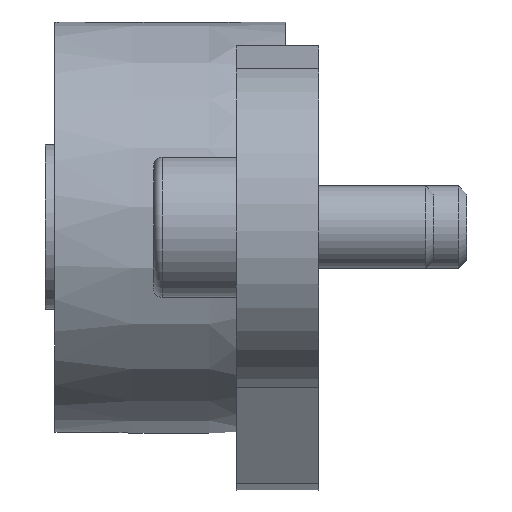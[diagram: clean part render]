
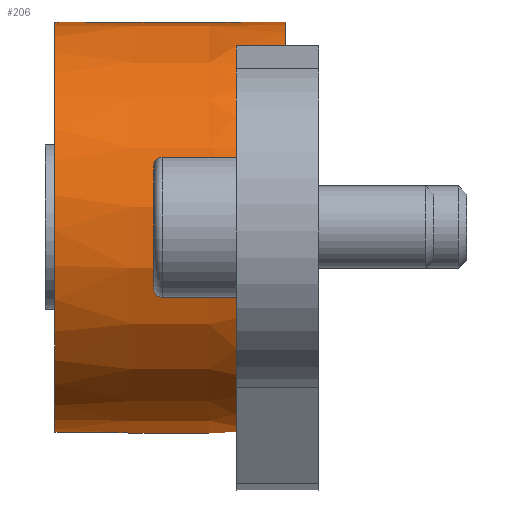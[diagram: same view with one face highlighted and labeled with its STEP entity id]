
A CAD part, left-side view. The second image highlights one B-rep face of the part: STEP entity #206.
In plain terms, the highlighted free-form (B-spline) face has degree [3, 3] with [4, 7] control points.
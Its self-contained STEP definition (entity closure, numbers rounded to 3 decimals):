
#206 = ADVANCED_FACE( '', ( #298, #299 ), #300, .T. );
#298 = FACE_OUTER_BOUND( '', #506, .T. );
#299 = FACE_OUTER_BOUND( '', #507, .T. );
#300 = ( BOUNDED_SURFACE(  )B_SPLINE_SURFACE( 3, 3, ( ( #510, #511, #512, #513, #514, #515, #516 ), ( #517, #518, #519, #520, #521, #522, #523 ), ( #524, #525, #526, #527, #528, #529, #530 ), ( #531, #532, #533, #534, #535, #536, #537 ) ), .UNSPECIFIED., .F., .T., .F. )B_SPLINE_SURFACE_WITH_KNOTS( ( 4, 4 ), ( 4, 3, 4 ), ( 0., 6.283 ), ( -0.014, 0., 0.014 ), .UNSPECIFIED. )GEOMETRIC_REPRESENTATION_ITEM(  )RATIONAL_B_SPLINE_SURFACE( ( ( 1., 0.333, 0.333, 1., 0.333, 0.333, 1. ), ( 1., 0.333, 0.333, 1., 0.333, 0.333, 1. ), ( 1., 0.333, 0.333, 1., 0.333, 0.333, 1. ), ( 1., 0.333, 0.333, 1., 0.333, 0.333, 1. ) ) )REPRESENTATION_ITEM( '' )SURFACE(  ) );
#506 = EDGE_LOOP( '', ( #747 ) );
#507 = EDGE_LOOP( '', ( #748, #749, #750, #751 ) );
#510 = CARTESIAN_POINT( '', ( 0., 2., -12.451 ) );
#511 = CARTESIAN_POINT( '', ( 24.902, 2., -12.451 ) );
#512 = CARTESIAN_POINT( '', ( 24.902, 2., 12.451 ) );
#513 = CARTESIAN_POINT( '', ( 0., 2., 12.451 ) );
#514 = CARTESIAN_POINT( '', ( -24.902, 2., 12.451 ) );
#515 = CARTESIAN_POINT( '', ( -24.902, 2., -12.451 ) );
#516 = CARTESIAN_POINT( '', ( 0., 2., -12.451 ) );
#517 = CARTESIAN_POINT( '', ( 0., 6.667, -12.516 ) );
#518 = CARTESIAN_POINT( '', ( 25.033, 6.667, -12.516 ) );
#519 = CARTESIAN_POINT( '', ( 25.033, 6.667, 12.516 ) );
#520 = CARTESIAN_POINT( '', ( 0., 6.667, 12.516 ) );
#521 = CARTESIAN_POINT( '', ( -25.033, 6.667, 12.516 ) );
#522 = CARTESIAN_POINT( '', ( -25.033, 6.667, -12.516 ) );
#523 = CARTESIAN_POINT( '', ( 0., 6.667, -12.516 ) );
#524 = CARTESIAN_POINT( '', ( 0., 11.333, -12.516 ) );
#525 = CARTESIAN_POINT( '', ( 25.033, 11.333, -12.516 ) );
#526 = CARTESIAN_POINT( '', ( 25.033, 11.333, 12.516 ) );
#527 = CARTESIAN_POINT( '', ( 0., 11.333, 12.516 ) );
#528 = CARTESIAN_POINT( '', ( -25.033, 11.333, 12.516 ) );
#529 = CARTESIAN_POINT( '', ( -25.033, 11.333, -12.516 ) );
#530 = CARTESIAN_POINT( '', ( 0., 11.333, -12.516 ) );
#531 = CARTESIAN_POINT( '', ( 0., 16., -12.451 ) );
#532 = CARTESIAN_POINT( '', ( 24.902, 16., -12.451 ) );
#533 = CARTESIAN_POINT( '', ( 24.902, 16., 12.451 ) );
#534 = CARTESIAN_POINT( '', ( 0., 16., 12.451 ) );
#535 = CARTESIAN_POINT( '', ( -24.902, 16., 12.451 ) );
#536 = CARTESIAN_POINT( '', ( -24.902, 16., -12.451 ) );
#537 = CARTESIAN_POINT( '', ( 0., 16., -12.451 ) );
#747 = ORIENTED_EDGE( '', *, *, #1393, .T. );
#748 = ORIENTED_EDGE( '', *, *, #1394, .F. );
#749 = ORIENTED_EDGE( '', *, *, #1395, .F. );
#750 = ORIENTED_EDGE( '', *, *, #1396, .F. );
#751 = ORIENTED_EDGE( '', *, *, #1397, .T. );
#1393 = EDGE_CURVE( '', #1583, #1583, #1584, .T. );
#1394 = EDGE_CURVE( '', #1585, #1586, #1587, .T. );
#1395 = EDGE_CURVE( '', #1588, #1585, #1589, .T. );
#1396 = EDGE_CURVE( '', #1590, #1588, #1591, .T. );
#1397 = EDGE_CURVE( '', #1590, #1586, #1592, .T. );
#1583 = VERTEX_POINT( '', #1899 );
#1584 = CIRCLE( '', #1900, 12.451 );
#1585 = VERTEX_POINT( '', #1901 );
#1586 = VERTEX_POINT( '', #1902 );
#1587 = B_SPLINE_CURVE_WITH_KNOTS( '', 3, ( #1903, #1904, #1905, #1906, #1907 ), .UNSPECIFIED., .F., .F., ( 4, 1, 4 ), ( 0.033, 0.035, 0.036 ), .UNSPECIFIED. );
#1588 = VERTEX_POINT( '', #1908 );
#1589 = CIRCLE( '', #1909, 12.451 );
#1590 = VERTEX_POINT( '', #1910 );
#1591 = B_SPLINE_CURVE_WITH_KNOTS( '', 3, ( #1911, #1912, #1913, #1914, #1915 ), .UNSPECIFIED., .F., .F., ( 4, 1, 4 ), ( 0.126, 0.127, 0.129 ), .UNSPECIFIED. );
#1592 = CIRCLE( '', #1916, 12.484 );
#1899 = CARTESIAN_POINT( '', ( 0., 16., -12.451 ) );
#1900 = AXIS2_PLACEMENT_3D( '', #2505, #2506, #2507 );
#1901 = CARTESIAN_POINT( '', ( -5.833, 2., 11. ) );
#1902 = CARTESIAN_POINT( '', ( -5.903, 5., 11. ) );
#1903 = CARTESIAN_POINT( '', ( -5.833, 2., 11. ) );
#1904 = CARTESIAN_POINT( '', ( -5.848, 2.5, 11. ) );
#1905 = CARTESIAN_POINT( '', ( -5.875, 3.5, 11. ) );
#1906 = CARTESIAN_POINT( '', ( -5.895, 4.5, 11. ) );
#1907 = CARTESIAN_POINT( '', ( -5.903, 5., 11. ) );
#1908 = CARTESIAN_POINT( '', ( 5.833, 2., 11. ) );
#1909 = AXIS2_PLACEMENT_3D( '', #2508, #2509, #2510 );
#1910 = CARTESIAN_POINT( '', ( 5.903, 5., 11. ) );
#1911 = CARTESIAN_POINT( '', ( 5.903, 5., 11. ) );
#1912 = CARTESIAN_POINT( '', ( 5.895, 4.5, 11. ) );
#1913 = CARTESIAN_POINT( '', ( 5.875, 3.5, 11. ) );
#1914 = CARTESIAN_POINT( '', ( 5.848, 2.5, 11. ) );
#1915 = CARTESIAN_POINT( '', ( 5.833, 2., 11. ) );
#1916 = AXIS2_PLACEMENT_3D( '', #2511, #2512, #2513 );
#2505 = CARTESIAN_POINT( '', ( 0., 16., 0. ) );
#2506 = DIRECTION( '', ( 0., -1., 0. ) );
#2507 = DIRECTION( '', ( 0., 0., -1. ) );
#2508 = CARTESIAN_POINT( '', ( 0., 2., 0. ) );
#2509 = DIRECTION( '', ( 0., -1., 0. ) );
#2510 = DIRECTION( '', ( 0., 0., -1. ) );
#2511 = CARTESIAN_POINT( '', ( 0., 5., 0. ) );
#2512 = DIRECTION( '', ( 0., 1., 0. ) );
#2513 = DIRECTION( '', ( 0., 0., 1. ) );
